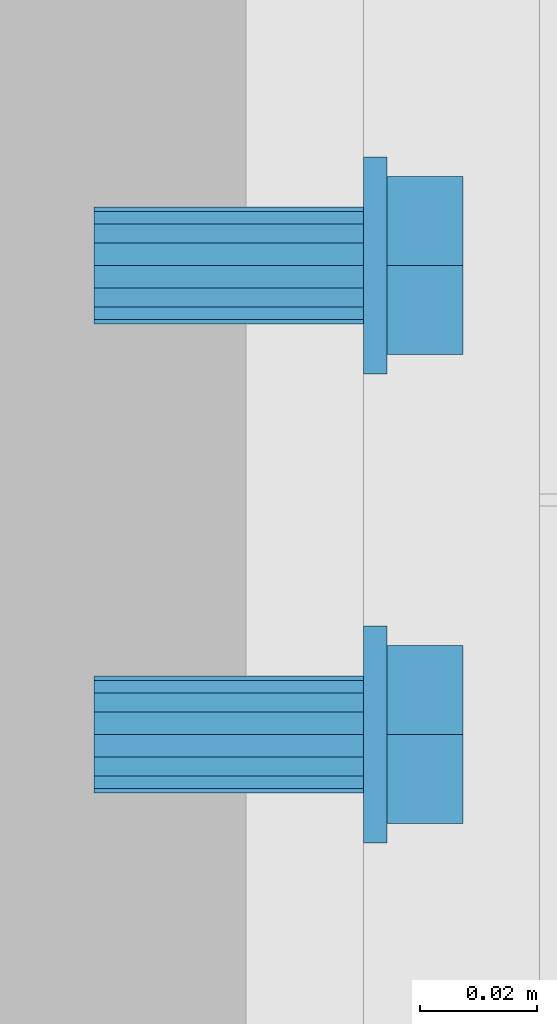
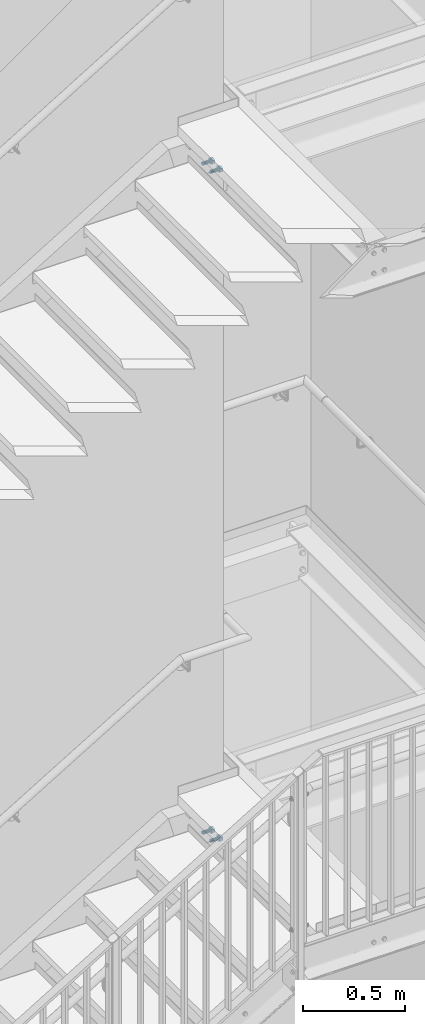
# One storey, part 309 of 410: 4 mechanical fasteners.
"""IFC2X3 building model written with IfcOpenShell, lengths in millimetres."""

from ifc_helpers import new_model, entity, si_unit, converted_unit, origin_with_axes, place, context, project, spatial, faceted_brep, element, save


model = new_model("IFC2X3")

# Units and contexts
model_context = context("Model", 3, precision=1e-09, world=origin_with_axes())
ifc_project = project(units=[si_unit("LENGTHUNIT", "METRE", prefix="MILLI"), si_unit("AREAUNIT", "SQUARE_METRE"), si_unit("VOLUMEUNIT", "CUBIC_METRE"), converted_unit("PLANEANGLEUNIT", "DEGREE", entity("IfcPlaneAngleMeasure", 0.01745329), si_unit("PLANEANGLEUNIT", "RADIAN"), dimensions=[0, 0, 0, 0, 0, 0, 0])], contexts=[model_context])

# Site, building, storey
site_placement = place(None, origin_with_axes())
site = spatial("IfcSite", under=ifc_project, at=site_placement, Name="mKR Teilneubau & Sanierung BA1 - Ostfildern", CompositionType="ELEMENT")
building_placement = place(site_placement, origin_with_axes())
building = spatial("IfcBuilding", under=site, at=building_placement, Name="Struktur 1", CompositionType="ELEMENT")
storey_placement = place(building_placement, origin_with_axes())
storey = spatial("IfcBuildingStorey", under=building, at=storey_placement, Name="Default Storey", CompositionType="ELEMENT", Elevation=0.0)

# Mechanical fasteners
mechanical_fastener_1_placement = place(None, origin_with_axes())
element("IfcMechanicalFastener", 1, at=mechanical_fastener_1_placement, inside=storey, ObjectType="-", NominalDiameter=20.0, NominalLength=50.0, context=model_context, shape_type="Brep", body=[
    faceted_brep([(1795.0, 17038.5, 5470.0), (1799.0, 17038.5, 5470.0), (1799.0, 17038.144527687, 5466.390829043), (1795.0, 17038.144527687, 5466.390829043), (1799.0, 17037.091771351, 5462.920356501), (1795.0, 17037.091771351, 5462.920356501), (1799.0, 17035.382187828, 5459.721950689), (1795.0, 17035.382187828, 5459.721950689), (1799.0, 17033.081475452, 5456.918524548), (1795.0, 17033.081475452, 5456.918524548), (1799.0, 17030.278049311, 5454.617812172), (1795.0, 17030.278049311, 5454.617812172), (1799.0, 17027.079643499, 5452.908228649), (1795.0, 17027.079643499, 5452.908228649), (1799.0, 17023.609170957, 5451.855472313), (1795.0, 17023.609170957, 5451.855472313), (1799.0, 17020.0, 5451.5), (1795.0, 17020.0, 5451.5), (1799.0, 17016.390829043, 5451.855472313), (1795.0, 17016.390829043, 5451.855472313), (1799.0, 17012.920356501, 5452.908228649), (1795.0, 17012.920356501, 5452.908228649), (1799.0, 17009.721950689, 5454.617812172), (1795.0, 17009.721950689, 5454.617812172), (1799.0, 17006.918524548, 5456.918524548), (1795.0, 17006.918524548, 5456.918524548), (1799.0, 17004.617812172, 5459.721950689), (1795.0, 17004.617812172, 5459.721950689), (1799.0, 17002.908228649, 5462.920356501), (1795.0, 17002.908228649, 5462.920356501), (1799.0, 17001.855472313, 5466.390829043), (1795.0, 17001.855472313, 5466.390829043), (1799.0, 17001.5, 5470.0), (1795.0, 17001.5, 5470.0), (1799.0, 17001.855472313, 5473.609170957), (1795.0, 17001.855472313, 5473.609170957), (1799.0, 17002.908228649, 5477.079643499), (1795.0, 17002.908228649, 5477.079643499), (1799.0, 17004.617812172, 5480.278049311), (1795.0, 17004.617812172, 5480.278049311), (1799.0, 17006.918524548, 5483.081475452), (1795.0, 17006.918524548, 5483.081475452), (1799.0, 17009.721950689, 5485.382187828), (1795.0, 17009.721950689, 5485.382187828), (1799.0, 17012.920356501, 5487.091771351), (1795.0, 17012.920356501, 5487.091771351), (1799.0, 17016.390829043, 5488.144527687), (1795.0, 17016.390829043, 5488.144527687), (1799.0, 17020.0, 5488.5), (1795.0, 17020.0, 5488.5), (1799.0, 17023.609170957, 5488.144527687), (1795.0, 17023.609170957, 5488.144527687), (1799.0, 17027.079643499, 5487.091771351), (1795.0, 17027.079643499, 5487.091771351), (1799.0, 17030.278049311, 5485.382187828), (1795.0, 17030.278049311, 5485.382187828), (1799.0, 17033.081475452, 5483.081475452), (1795.0, 17033.081475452, 5483.081475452), (1799.0, 17035.382187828, 5480.278049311), (1795.0, 17035.382187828, 5480.278049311), (1799.0, 17037.091771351, 5477.079643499), (1795.0, 17037.091771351, 5477.079643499), (1799.0, 17038.144527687, 5473.609170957), (1795.0, 17038.144527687, 5473.609170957)], [[[0, 1, 2, 3]], [[3, 2, 4, 5]], [[5, 4, 6, 7]], [[7, 6, 8, 9]], [[9, 8, 10, 11]], [[11, 10, 12, 13]], [[13, 12, 14, 15]], [[15, 14, 16, 17]], [[17, 16, 18, 19]], [[19, 18, 20, 21]], [[21, 20, 22, 23]], [[23, 22, 24, 25]], [[25, 24, 26, 27]], [[27, 26, 28, 29]], [[29, 28, 30, 31]], [[31, 30, 32, 33]], [[33, 32, 34, 35]], [[35, 34, 36, 37]], [[37, 36, 38, 39]], [[39, 38, 40, 41]], [[41, 40, 42, 43]], [[43, 42, 44, 45]], [[45, 44, 46, 47]], [[47, 46, 48, 49]], [[49, 48, 50, 51]], [[51, 50, 52, 53]], [[53, 52, 54, 55]], [[55, 54, 56, 57]], [[57, 56, 58, 59]], [[59, 58, 60, 61]], [[61, 60, 62, 63]], [[63, 62, 1, 0]], [[2, 1, 62, 60, 58, 56, 54, 52, 50, 48, 46, 44, 42, 40, 38, 36, 34, 32, 30, 28, 26, 24, 22, 20, 18, 16, 14, 12, 10, 8, 6, 4]], [[63, 0, 3, 5, 7, 9, 11, 13, 15, 17, 19, 21, 23, 25, 27, 29, 31, 33, 35, 37, 39, 41, 43, 45, 47, 49, 51, 53, 55, 57, 59, 61]]]),
    faceted_brep([(1812.0, 17004.831565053, 5461.2425), (1799.0, 17004.831565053, 5461.2425), (1799.0, 17020.0, 5452.485), (1812.0, 17020.0, 5452.485), (1799.0, 17035.168434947, 5461.2425), (1812.0, 17035.168434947, 5461.2425), (1799.0, 17035.168434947, 5478.7575), (1812.0, 17035.168434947, 5478.7575), (1799.0, 17020.0, 5487.515), (1812.0, 17020.0, 5487.515), (1799.0, 17004.831565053, 5478.7575), (1812.0, 17004.831565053, 5478.7575)], [[[0, 1, 2, 3]], [[3, 2, 4, 5]], [[5, 4, 6, 7]], [[7, 6, 8, 9]], [[9, 8, 10, 11]], [[11, 10, 1, 0]], [[3, 5, 7, 9, 11, 0]], [[2, 1, 10, 8, 6, 4]]]),
    faceted_brep([(1775.0, 17030.0, 5470.0), (1795.0, 17030.0, 5470.0), (1795.0, 17029.238795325, 5466.173165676), (1775.0, 17029.238795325, 5466.173165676), (1795.0, 17027.071067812, 5462.928932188), (1775.0, 17027.071067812, 5462.928932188), (1795.0, 17023.826834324, 5460.761204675), (1775.0, 17023.826834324, 5460.761204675), (1795.0, 17020.0, 5460.0), (1775.0, 17020.0, 5460.0), (1795.0, 17016.173165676, 5460.761204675), (1775.0, 17016.173165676, 5460.761204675), (1795.0, 17012.928932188, 5462.928932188), (1775.0, 17012.928932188, 5462.928932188), (1795.0, 17010.761204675, 5466.173165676), (1775.0, 17010.761204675, 5466.173165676), (1795.0, 17010.0, 5470.0), (1775.0, 17010.0, 5470.0), (1795.0, 17010.761204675, 5473.826834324), (1775.0, 17010.761204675, 5473.826834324), (1795.0, 17012.928932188, 5477.071067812), (1775.0, 17012.928932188, 5477.071067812), (1795.0, 17016.173165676, 5479.238795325), (1775.0, 17016.173165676, 5479.238795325), (1795.0, 17020.0, 5480.0), (1775.0, 17020.0, 5480.0), (1795.0, 17023.826834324, 5479.238795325), (1775.0, 17023.826834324, 5479.238795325), (1795.0, 17027.071067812, 5477.071067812), (1775.0, 17027.071067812, 5477.071067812), (1795.0, 17029.238795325, 5473.826834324), (1775.0, 17029.238795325, 5473.826834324)], [[[0, 1, 2, 3]], [[3, 2, 4, 5]], [[5, 4, 6, 7]], [[7, 6, 8, 9]], [[9, 8, 10, 11]], [[11, 10, 12, 13]], [[13, 12, 14, 15]], [[15, 14, 16, 17]], [[17, 16, 18, 19]], [[19, 18, 20, 21]], [[21, 20, 22, 23]], [[23, 22, 24, 25]], [[25, 24, 26, 27]], [[27, 26, 28, 29]], [[29, 28, 30, 31]], [[31, 30, 1, 0]], [[2, 1, 30, 28, 26, 24, 22, 20, 18, 16, 14, 12, 10, 8, 6, 4]], [[31, 0, 3, 5, 7, 9, 11, 13, 15, 17, 19, 21, 23, 25, 27, 29]]]),
    faceted_brep([(1749.0, 17030.0, 5470.0), (1775.0, 17030.0, 5470.0), (1775.0, 17029.238795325, 5466.173165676), (1749.0, 17029.238795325, 5466.173165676), (1775.0, 17027.071067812, 5462.928932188), (1749.0, 17027.071067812, 5462.928932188), (1775.0, 17023.826834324, 5460.761204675), (1749.0, 17023.826834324, 5460.761204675), (1775.0, 17020.0, 5460.0), (1749.0, 17020.0, 5460.0), (1775.0, 17016.173165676, 5460.761204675), (1749.0, 17016.173165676, 5460.761204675), (1775.0, 17012.928932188, 5462.928932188), (1749.0, 17012.928932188, 5462.928932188), (1775.0, 17010.761204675, 5466.173165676), (1749.0, 17010.761204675, 5466.173165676), (1775.0, 17010.0, 5470.0), (1749.0, 17010.0, 5470.0), (1775.0, 17010.761204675, 5473.826834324), (1749.0, 17010.761204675, 5473.826834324), (1775.0, 17012.928932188, 5477.071067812), (1749.0, 17012.928932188, 5477.071067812), (1775.0, 17016.173165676, 5479.238795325), (1749.0, 17016.173165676, 5479.238795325), (1775.0, 17020.0, 5480.0), (1749.0, 17020.0, 5480.0), (1775.0, 17023.826834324, 5479.238795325), (1749.0, 17023.826834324, 5479.238795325), (1775.0, 17027.071067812, 5477.071067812), (1749.0, 17027.071067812, 5477.071067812), (1775.0, 17029.238795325, 5473.826834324), (1749.0, 17029.238795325, 5473.826834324)], [[[0, 1, 2, 3]], [[3, 2, 4, 5]], [[5, 4, 6, 7]], [[7, 6, 8, 9]], [[9, 8, 10, 11]], [[11, 10, 12, 13]], [[13, 12, 14, 15]], [[15, 14, 16, 17]], [[17, 16, 18, 19]], [[19, 18, 20, 21]], [[21, 20, 22, 23]], [[23, 22, 24, 25]], [[25, 24, 26, 27]], [[27, 26, 28, 29]], [[29, 28, 30, 31]], [[31, 30, 1, 0]], [[2, 1, 30, 28, 26, 24, 22, 20, 18, 16, 14, 12, 10, 8, 6, 4]], [[31, 0, 3, 5, 7, 9, 11, 13, 15, 17, 19, 21, 23, 25, 27, 29]]]),
])
mechanical_fastener_2_placement = place(None, origin_with_axes())
element("IfcMechanicalFastener", 2, at=mechanical_fastener_2_placement, inside=storey, ObjectType="-", NominalDiameter=20.0, NominalLength=50.0, context=model_context, shape_type="Brep", body=[
    faceted_brep([(1795.0, 16958.5, 5470.0), (1799.0, 16958.5, 5470.0), (1799.0, 16958.144527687, 5466.390829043), (1795.0, 16958.144527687, 5466.390829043), (1799.0, 16957.091771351, 5462.920356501), (1795.0, 16957.091771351, 5462.920356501), (1799.0, 16955.382187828, 5459.721950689), (1795.0, 16955.382187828, 5459.721950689), (1799.0, 16953.081475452, 5456.918524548), (1795.0, 16953.081475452, 5456.918524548), (1799.0, 16950.278049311, 5454.617812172), (1795.0, 16950.278049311, 5454.617812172), (1799.0, 16947.079643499, 5452.908228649), (1795.0, 16947.079643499, 5452.908228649), (1799.0, 16943.609170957, 5451.855472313), (1795.0, 16943.609170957, 5451.855472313), (1799.0, 16940.0, 5451.5), (1795.0, 16940.0, 5451.5), (1799.0, 16936.390829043, 5451.855472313), (1795.0, 16936.390829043, 5451.855472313), (1799.0, 16932.920356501, 5452.908228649), (1795.0, 16932.920356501, 5452.908228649), (1799.0, 16929.721950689, 5454.617812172), (1795.0, 16929.721950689, 5454.617812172), (1799.0, 16926.918524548, 5456.918524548), (1795.0, 16926.918524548, 5456.918524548), (1799.0, 16924.617812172, 5459.721950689), (1795.0, 16924.617812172, 5459.721950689), (1799.0, 16922.908228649, 5462.920356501), (1795.0, 16922.908228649, 5462.920356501), (1799.0, 16921.855472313, 5466.390829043), (1795.0, 16921.855472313, 5466.390829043), (1799.0, 16921.5, 5470.0), (1795.0, 16921.5, 5470.0), (1799.0, 16921.855472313, 5473.609170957), (1795.0, 16921.855472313, 5473.609170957), (1799.0, 16922.908228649, 5477.079643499), (1795.0, 16922.908228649, 5477.079643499), (1799.0, 16924.617812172, 5480.278049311), (1795.0, 16924.617812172, 5480.278049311), (1799.0, 16926.918524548, 5483.081475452), (1795.0, 16926.918524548, 5483.081475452), (1799.0, 16929.721950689, 5485.382187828), (1795.0, 16929.721950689, 5485.382187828), (1799.0, 16932.920356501, 5487.091771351), (1795.0, 16932.920356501, 5487.091771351), (1799.0, 16936.390829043, 5488.144527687), (1795.0, 16936.390829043, 5488.144527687), (1799.0, 16940.0, 5488.5), (1795.0, 16940.0, 5488.5), (1799.0, 16943.609170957, 5488.144527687), (1795.0, 16943.609170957, 5488.144527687), (1799.0, 16947.079643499, 5487.091771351), (1795.0, 16947.079643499, 5487.091771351), (1799.0, 16950.278049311, 5485.382187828), (1795.0, 16950.278049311, 5485.382187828), (1799.0, 16953.081475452, 5483.081475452), (1795.0, 16953.081475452, 5483.081475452), (1799.0, 16955.382187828, 5480.278049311), (1795.0, 16955.382187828, 5480.278049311), (1799.0, 16957.091771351, 5477.079643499), (1795.0, 16957.091771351, 5477.079643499), (1799.0, 16958.144527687, 5473.609170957), (1795.0, 16958.144527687, 5473.609170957)], [[[0, 1, 2, 3]], [[3, 2, 4, 5]], [[5, 4, 6, 7]], [[7, 6, 8, 9]], [[9, 8, 10, 11]], [[11, 10, 12, 13]], [[13, 12, 14, 15]], [[15, 14, 16, 17]], [[17, 16, 18, 19]], [[19, 18, 20, 21]], [[21, 20, 22, 23]], [[23, 22, 24, 25]], [[25, 24, 26, 27]], [[27, 26, 28, 29]], [[29, 28, 30, 31]], [[31, 30, 32, 33]], [[33, 32, 34, 35]], [[35, 34, 36, 37]], [[37, 36, 38, 39]], [[39, 38, 40, 41]], [[41, 40, 42, 43]], [[43, 42, 44, 45]], [[45, 44, 46, 47]], [[47, 46, 48, 49]], [[49, 48, 50, 51]], [[51, 50, 52, 53]], [[53, 52, 54, 55]], [[55, 54, 56, 57]], [[57, 56, 58, 59]], [[59, 58, 60, 61]], [[61, 60, 62, 63]], [[63, 62, 1, 0]], [[2, 1, 62, 60, 58, 56, 54, 52, 50, 48, 46, 44, 42, 40, 38, 36, 34, 32, 30, 28, 26, 24, 22, 20, 18, 16, 14, 12, 10, 8, 6, 4]], [[63, 0, 3, 5, 7, 9, 11, 13, 15, 17, 19, 21, 23, 25, 27, 29, 31, 33, 35, 37, 39, 41, 43, 45, 47, 49, 51, 53, 55, 57, 59, 61]]]),
    faceted_brep([(1812.0, 16924.831565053, 5461.2425), (1799.0, 16924.831565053, 5461.2425), (1799.0, 16940.0, 5452.485), (1812.0, 16940.0, 5452.485), (1799.0, 16955.168434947, 5461.2425), (1812.0, 16955.168434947, 5461.2425), (1799.0, 16955.168434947, 5478.7575), (1812.0, 16955.168434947, 5478.7575), (1799.0, 16940.0, 5487.515), (1812.0, 16940.0, 5487.515), (1799.0, 16924.831565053, 5478.7575), (1812.0, 16924.831565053, 5478.7575)], [[[0, 1, 2, 3]], [[3, 2, 4, 5]], [[5, 4, 6, 7]], [[7, 6, 8, 9]], [[9, 8, 10, 11]], [[11, 10, 1, 0]], [[3, 5, 7, 9, 11, 0]], [[2, 1, 10, 8, 6, 4]]]),
    faceted_brep([(1775.0, 16950.0, 5470.0), (1795.0, 16950.0, 5470.0), (1795.0, 16949.238795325, 5466.173165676), (1775.0, 16949.238795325, 5466.173165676), (1795.0, 16947.071067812, 5462.928932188), (1775.0, 16947.071067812, 5462.928932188), (1795.0, 16943.826834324, 5460.761204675), (1775.0, 16943.826834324, 5460.761204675), (1795.0, 16940.0, 5460.0), (1775.0, 16940.0, 5460.0), (1795.0, 16936.173165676, 5460.761204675), (1775.0, 16936.173165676, 5460.761204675), (1795.0, 16932.928932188, 5462.928932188), (1775.0, 16932.928932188, 5462.928932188), (1795.0, 16930.761204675, 5466.173165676), (1775.0, 16930.761204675, 5466.173165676), (1795.0, 16930.0, 5470.0), (1775.0, 16930.0, 5470.0), (1795.0, 16930.761204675, 5473.826834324), (1775.0, 16930.761204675, 5473.826834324), (1795.0, 16932.928932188, 5477.071067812), (1775.0, 16932.928932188, 5477.071067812), (1795.0, 16936.173165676, 5479.238795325), (1775.0, 16936.173165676, 5479.238795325), (1795.0, 16940.0, 5480.0), (1775.0, 16940.0, 5480.0), (1795.0, 16943.826834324, 5479.238795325), (1775.0, 16943.826834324, 5479.238795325), (1795.0, 16947.071067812, 5477.071067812), (1775.0, 16947.071067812, 5477.071067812), (1795.0, 16949.238795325, 5473.826834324), (1775.0, 16949.238795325, 5473.826834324)], [[[0, 1, 2, 3]], [[3, 2, 4, 5]], [[5, 4, 6, 7]], [[7, 6, 8, 9]], [[9, 8, 10, 11]], [[11, 10, 12, 13]], [[13, 12, 14, 15]], [[15, 14, 16, 17]], [[17, 16, 18, 19]], [[19, 18, 20, 21]], [[21, 20, 22, 23]], [[23, 22, 24, 25]], [[25, 24, 26, 27]], [[27, 26, 28, 29]], [[29, 28, 30, 31]], [[31, 30, 1, 0]], [[2, 1, 30, 28, 26, 24, 22, 20, 18, 16, 14, 12, 10, 8, 6, 4]], [[31, 0, 3, 5, 7, 9, 11, 13, 15, 17, 19, 21, 23, 25, 27, 29]]]),
    faceted_brep([(1749.0, 16950.0, 5470.0), (1775.0, 16950.0, 5470.0), (1775.0, 16949.238795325, 5466.173165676), (1749.0, 16949.238795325, 5466.173165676), (1775.0, 16947.071067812, 5462.928932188), (1749.0, 16947.071067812, 5462.928932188), (1775.0, 16943.826834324, 5460.761204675), (1749.0, 16943.826834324, 5460.761204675), (1775.0, 16940.0, 5460.0), (1749.0, 16940.0, 5460.0), (1775.0, 16936.173165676, 5460.761204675), (1749.0, 16936.173165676, 5460.761204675), (1775.0, 16932.928932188, 5462.928932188), (1749.0, 16932.928932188, 5462.928932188), (1775.0, 16930.761204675, 5466.173165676), (1749.0, 16930.761204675, 5466.173165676), (1775.0, 16930.0, 5470.0), (1749.0, 16930.0, 5470.0), (1775.0, 16930.761204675, 5473.826834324), (1749.0, 16930.761204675, 5473.826834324), (1775.0, 16932.928932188, 5477.071067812), (1749.0, 16932.928932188, 5477.071067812), (1775.0, 16936.173165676, 5479.238795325), (1749.0, 16936.173165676, 5479.238795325), (1775.0, 16940.0, 5480.0), (1749.0, 16940.0, 5480.0), (1775.0, 16943.826834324, 5479.238795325), (1749.0, 16943.826834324, 5479.238795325), (1775.0, 16947.071067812, 5477.071067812), (1749.0, 16947.071067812, 5477.071067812), (1775.0, 16949.238795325, 5473.826834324), (1749.0, 16949.238795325, 5473.826834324)], [[[0, 1, 2, 3]], [[3, 2, 4, 5]], [[5, 4, 6, 7]], [[7, 6, 8, 9]], [[9, 8, 10, 11]], [[11, 10, 12, 13]], [[13, 12, 14, 15]], [[15, 14, 16, 17]], [[17, 16, 18, 19]], [[19, 18, 20, 21]], [[21, 20, 22, 23]], [[23, 22, 24, 25]], [[25, 24, 26, 27]], [[27, 26, 28, 29]], [[29, 28, 30, 31]], [[31, 30, 1, 0]], [[2, 1, 30, 28, 26, 24, 22, 20, 18, 16, 14, 12, 10, 8, 6, 4]], [[31, 0, 3, 5, 7, 9, 11, 13, 15, 17, 19, 21, 23, 25, 27, 29]]]),
])
mechanical_fastener_3_placement = place(None, origin_with_axes())
element("IfcMechanicalFastener", 3, at=mechanical_fastener_3_placement, inside=storey, ObjectType="-", NominalDiameter=20.0, NominalLength=50.0, context=model_context, shape_type="Brep", body=[
    faceted_brep([(1795.0, 16958.5, 1458.0434785), (1799.0, 16958.5, 1458.0434785), (1799.0, 16958.144527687, 1454.434307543), (1795.0, 16958.144527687, 1454.434307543), (1799.0, 16957.091771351, 1450.963835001), (1795.0, 16957.091771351, 1450.963835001), (1799.0, 16955.382187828, 1447.765429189), (1795.0, 16955.382187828, 1447.765429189), (1799.0, 16953.081475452, 1444.962003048), (1795.0, 16953.081475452, 1444.962003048), (1799.0, 16950.278049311, 1442.661290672), (1795.0, 16950.278049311, 1442.661290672), (1799.0, 16947.079643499, 1440.951707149), (1795.0, 16947.079643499, 1440.951707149), (1799.0, 16943.609170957, 1439.898950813), (1795.0, 16943.609170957, 1439.898950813), (1799.0, 16940.0, 1439.5434785), (1795.0, 16940.0, 1439.5434785), (1799.0, 16936.390829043, 1439.898950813), (1795.0, 16936.390829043, 1439.898950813), (1799.0, 16932.920356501, 1440.951707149), (1795.0, 16932.920356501, 1440.951707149), (1799.0, 16929.721950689, 1442.661290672), (1795.0, 16929.721950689, 1442.661290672), (1799.0, 16926.918524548, 1444.962003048), (1795.0, 16926.918524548, 1444.962003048), (1799.0, 16924.617812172, 1447.765429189), (1795.0, 16924.617812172, 1447.765429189), (1799.0, 16922.908228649, 1450.963835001), (1795.0, 16922.908228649, 1450.963835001), (1799.0, 16921.855472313, 1454.434307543), (1795.0, 16921.855472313, 1454.434307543), (1799.0, 16921.5, 1458.0434785), (1795.0, 16921.5, 1458.0434785), (1799.0, 16921.855472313, 1461.652649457), (1795.0, 16921.855472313, 1461.652649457), (1799.0, 16922.908228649, 1465.123121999), (1795.0, 16922.908228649, 1465.123121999), (1799.0, 16924.617812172, 1468.321527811), (1795.0, 16924.617812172, 1468.321527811), (1799.0, 16926.918524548, 1471.124953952), (1795.0, 16926.918524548, 1471.124953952), (1799.0, 16929.721950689, 1473.425666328), (1795.0, 16929.721950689, 1473.425666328), (1799.0, 16932.920356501, 1475.135249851), (1795.0, 16932.920356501, 1475.135249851), (1799.0, 16936.390829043, 1476.188006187), (1795.0, 16936.390829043, 1476.188006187), (1799.0, 16940.0, 1476.5434785), (1795.0, 16940.0, 1476.5434785), (1799.0, 16943.609170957, 1476.188006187), (1795.0, 16943.609170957, 1476.188006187), (1799.0, 16947.079643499, 1475.135249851), (1795.0, 16947.079643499, 1475.135249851), (1799.0, 16950.278049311, 1473.425666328), (1795.0, 16950.278049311, 1473.425666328), (1799.0, 16953.081475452, 1471.124953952), (1795.0, 16953.081475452, 1471.124953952), (1799.0, 16955.382187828, 1468.321527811), (1795.0, 16955.382187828, 1468.321527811), (1799.0, 16957.091771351, 1465.123121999), (1795.0, 16957.091771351, 1465.123121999), (1799.0, 16958.144527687, 1461.652649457), (1795.0, 16958.144527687, 1461.652649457)], [[[0, 1, 2, 3]], [[3, 2, 4, 5]], [[5, 4, 6, 7]], [[7, 6, 8, 9]], [[9, 8, 10, 11]], [[11, 10, 12, 13]], [[13, 12, 14, 15]], [[15, 14, 16, 17]], [[17, 16, 18, 19]], [[19, 18, 20, 21]], [[21, 20, 22, 23]], [[23, 22, 24, 25]], [[25, 24, 26, 27]], [[27, 26, 28, 29]], [[29, 28, 30, 31]], [[31, 30, 32, 33]], [[33, 32, 34, 35]], [[35, 34, 36, 37]], [[37, 36, 38, 39]], [[39, 38, 40, 41]], [[41, 40, 42, 43]], [[43, 42, 44, 45]], [[45, 44, 46, 47]], [[47, 46, 48, 49]], [[49, 48, 50, 51]], [[51, 50, 52, 53]], [[53, 52, 54, 55]], [[55, 54, 56, 57]], [[57, 56, 58, 59]], [[59, 58, 60, 61]], [[61, 60, 62, 63]], [[63, 62, 1, 0]], [[2, 1, 62, 60, 58, 56, 54, 52, 50, 48, 46, 44, 42, 40, 38, 36, 34, 32, 30, 28, 26, 24, 22, 20, 18, 16, 14, 12, 10, 8, 6, 4]], [[63, 0, 3, 5, 7, 9, 11, 13, 15, 17, 19, 21, 23, 25, 27, 29, 31, 33, 35, 37, 39, 41, 43, 45, 47, 49, 51, 53, 55, 57, 59, 61]]]),
    faceted_brep([(1812.0, 16924.831565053, 1449.2859785), (1799.0, 16924.831565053, 1449.2859785), (1799.0, 16940.0, 1440.5284785), (1812.0, 16940.0, 1440.5284785), (1799.0, 16955.168434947, 1449.2859785), (1812.0, 16955.168434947, 1449.2859785), (1799.0, 16955.168434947, 1466.8009785), (1812.0, 16955.168434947, 1466.8009785), (1799.0, 16940.0, 1475.5584785), (1812.0, 16940.0, 1475.5584785), (1799.0, 16924.831565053, 1466.8009785), (1812.0, 16924.831565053, 1466.8009785)], [[[0, 1, 2, 3]], [[3, 2, 4, 5]], [[5, 4, 6, 7]], [[7, 6, 8, 9]], [[9, 8, 10, 11]], [[11, 10, 1, 0]], [[3, 5, 7, 9, 11, 0]], [[2, 1, 10, 8, 6, 4]]]),
    faceted_brep([(1775.0, 16950.0, 1458.0434785), (1795.0, 16950.0, 1458.0434785), (1795.0, 16949.238795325, 1454.216644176), (1775.0, 16949.238795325, 1454.216644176), (1795.0, 16947.071067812, 1450.972410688), (1775.0, 16947.071067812, 1450.972410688), (1795.0, 16943.826834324, 1448.804683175), (1775.0, 16943.826834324, 1448.804683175), (1795.0, 16940.0, 1448.0434785), (1775.0, 16940.0, 1448.0434785), (1795.0, 16936.173165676, 1448.804683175), (1775.0, 16936.173165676, 1448.804683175), (1795.0, 16932.928932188, 1450.972410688), (1775.0, 16932.928932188, 1450.972410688), (1795.0, 16930.761204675, 1454.216644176), (1775.0, 16930.761204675, 1454.216644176), (1795.0, 16930.0, 1458.0434785), (1775.0, 16930.0, 1458.0434785), (1795.0, 16930.761204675, 1461.870312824), (1775.0, 16930.761204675, 1461.870312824), (1795.0, 16932.928932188, 1465.114546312), (1775.0, 16932.928932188, 1465.114546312), (1795.0, 16936.173165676, 1467.282273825), (1775.0, 16936.173165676, 1467.282273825), (1795.0, 16940.0, 1468.0434785), (1775.0, 16940.0, 1468.0434785), (1795.0, 16943.826834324, 1467.282273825), (1775.0, 16943.826834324, 1467.282273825), (1795.0, 16947.071067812, 1465.114546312), (1775.0, 16947.071067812, 1465.114546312), (1795.0, 16949.238795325, 1461.870312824), (1775.0, 16949.238795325, 1461.870312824)], [[[0, 1, 2, 3]], [[3, 2, 4, 5]], [[5, 4, 6, 7]], [[7, 6, 8, 9]], [[9, 8, 10, 11]], [[11, 10, 12, 13]], [[13, 12, 14, 15]], [[15, 14, 16, 17]], [[17, 16, 18, 19]], [[19, 18, 20, 21]], [[21, 20, 22, 23]], [[23, 22, 24, 25]], [[25, 24, 26, 27]], [[27, 26, 28, 29]], [[29, 28, 30, 31]], [[31, 30, 1, 0]], [[2, 1, 30, 28, 26, 24, 22, 20, 18, 16, 14, 12, 10, 8, 6, 4]], [[31, 0, 3, 5, 7, 9, 11, 13, 15, 17, 19, 21, 23, 25, 27, 29]]]),
    faceted_brep([(1749.0, 16950.0, 1458.0434785), (1775.0, 16950.0, 1458.0434785), (1775.0, 16949.238795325, 1454.216644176), (1749.0, 16949.238795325, 1454.216644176), (1775.0, 16947.071067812, 1450.972410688), (1749.0, 16947.071067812, 1450.972410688), (1775.0, 16943.826834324, 1448.804683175), (1749.0, 16943.826834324, 1448.804683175), (1775.0, 16940.0, 1448.0434785), (1749.0, 16940.0, 1448.0434785), (1775.0, 16936.173165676, 1448.804683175), (1749.0, 16936.173165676, 1448.804683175), (1775.0, 16932.928932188, 1450.972410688), (1749.0, 16932.928932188, 1450.972410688), (1775.0, 16930.761204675, 1454.216644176), (1749.0, 16930.761204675, 1454.216644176), (1775.0, 16930.0, 1458.0434785), (1749.0, 16930.0, 1458.0434785), (1775.0, 16930.761204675, 1461.870312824), (1749.0, 16930.761204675, 1461.870312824), (1775.0, 16932.928932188, 1465.114546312), (1749.0, 16932.928932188, 1465.114546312), (1775.0, 16936.173165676, 1467.282273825), (1749.0, 16936.173165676, 1467.282273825), (1775.0, 16940.0, 1468.0434785), (1749.0, 16940.0, 1468.0434785), (1775.0, 16943.826834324, 1467.282273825), (1749.0, 16943.826834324, 1467.282273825), (1775.0, 16947.071067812, 1465.114546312), (1749.0, 16947.071067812, 1465.114546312), (1775.0, 16949.238795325, 1461.870312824), (1749.0, 16949.238795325, 1461.870312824)], [[[0, 1, 2, 3]], [[3, 2, 4, 5]], [[5, 4, 6, 7]], [[7, 6, 8, 9]], [[9, 8, 10, 11]], [[11, 10, 12, 13]], [[13, 12, 14, 15]], [[15, 14, 16, 17]], [[17, 16, 18, 19]], [[19, 18, 20, 21]], [[21, 20, 22, 23]], [[23, 22, 24, 25]], [[25, 24, 26, 27]], [[27, 26, 28, 29]], [[29, 28, 30, 31]], [[31, 30, 1, 0]], [[2, 1, 30, 28, 26, 24, 22, 20, 18, 16, 14, 12, 10, 8, 6, 4]], [[31, 0, 3, 5, 7, 9, 11, 13, 15, 17, 19, 21, 23, 25, 27, 29]]]),
])
mechanical_fastener_4_placement = place(None, origin_with_axes())
element("IfcMechanicalFastener", 4, at=mechanical_fastener_4_placement, inside=storey, ObjectType="-", NominalDiameter=20.0, NominalLength=50.0, context=model_context, shape_type="Brep", body=[
    faceted_brep([(1795.0, 17038.5, 1458.0434785), (1799.0, 17038.5, 1458.0434785), (1799.0, 17038.144527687, 1454.434307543), (1795.0, 17038.144527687, 1454.434307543), (1799.0, 17037.091771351, 1450.963835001), (1795.0, 17037.091771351, 1450.963835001), (1799.0, 17035.382187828, 1447.765429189), (1795.0, 17035.382187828, 1447.765429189), (1799.0, 17033.081475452, 1444.962003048), (1795.0, 17033.081475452, 1444.962003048), (1799.0, 17030.278049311, 1442.661290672), (1795.0, 17030.278049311, 1442.661290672), (1799.0, 17027.079643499, 1440.951707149), (1795.0, 17027.079643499, 1440.951707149), (1799.0, 17023.609170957, 1439.898950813), (1795.0, 17023.609170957, 1439.898950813), (1799.0, 17020.0, 1439.5434785), (1795.0, 17020.0, 1439.5434785), (1799.0, 17016.390829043, 1439.898950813), (1795.0, 17016.390829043, 1439.898950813), (1799.0, 17012.920356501, 1440.951707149), (1795.0, 17012.920356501, 1440.951707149), (1799.0, 17009.721950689, 1442.661290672), (1795.0, 17009.721950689, 1442.661290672), (1799.0, 17006.918524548, 1444.962003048), (1795.0, 17006.918524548, 1444.962003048), (1799.0, 17004.617812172, 1447.765429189), (1795.0, 17004.617812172, 1447.765429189), (1799.0, 17002.908228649, 1450.963835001), (1795.0, 17002.908228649, 1450.963835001), (1799.0, 17001.855472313, 1454.434307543), (1795.0, 17001.855472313, 1454.434307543), (1799.0, 17001.5, 1458.0434785), (1795.0, 17001.5, 1458.0434785), (1799.0, 17001.855472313, 1461.652649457), (1795.0, 17001.855472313, 1461.652649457), (1799.0, 17002.908228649, 1465.123121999), (1795.0, 17002.908228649, 1465.123121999), (1799.0, 17004.617812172, 1468.321527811), (1795.0, 17004.617812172, 1468.321527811), (1799.0, 17006.918524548, 1471.124953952), (1795.0, 17006.918524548, 1471.124953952), (1799.0, 17009.721950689, 1473.425666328), (1795.0, 17009.721950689, 1473.425666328), (1799.0, 17012.920356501, 1475.135249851), (1795.0, 17012.920356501, 1475.135249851), (1799.0, 17016.390829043, 1476.188006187), (1795.0, 17016.390829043, 1476.188006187), (1799.0, 17020.0, 1476.5434785), (1795.0, 17020.0, 1476.5434785), (1799.0, 17023.609170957, 1476.188006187), (1795.0, 17023.609170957, 1476.188006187), (1799.0, 17027.079643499, 1475.135249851), (1795.0, 17027.079643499, 1475.135249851), (1799.0, 17030.278049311, 1473.425666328), (1795.0, 17030.278049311, 1473.425666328), (1799.0, 17033.081475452, 1471.124953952), (1795.0, 17033.081475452, 1471.124953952), (1799.0, 17035.382187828, 1468.321527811), (1795.0, 17035.382187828, 1468.321527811), (1799.0, 17037.091771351, 1465.123121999), (1795.0, 17037.091771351, 1465.123121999), (1799.0, 17038.144527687, 1461.652649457), (1795.0, 17038.144527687, 1461.652649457)], [[[0, 1, 2, 3]], [[3, 2, 4, 5]], [[5, 4, 6, 7]], [[7, 6, 8, 9]], [[9, 8, 10, 11]], [[11, 10, 12, 13]], [[13, 12, 14, 15]], [[15, 14, 16, 17]], [[17, 16, 18, 19]], [[19, 18, 20, 21]], [[21, 20, 22, 23]], [[23, 22, 24, 25]], [[25, 24, 26, 27]], [[27, 26, 28, 29]], [[29, 28, 30, 31]], [[31, 30, 32, 33]], [[33, 32, 34, 35]], [[35, 34, 36, 37]], [[37, 36, 38, 39]], [[39, 38, 40, 41]], [[41, 40, 42, 43]], [[43, 42, 44, 45]], [[45, 44, 46, 47]], [[47, 46, 48, 49]], [[49, 48, 50, 51]], [[51, 50, 52, 53]], [[53, 52, 54, 55]], [[55, 54, 56, 57]], [[57, 56, 58, 59]], [[59, 58, 60, 61]], [[61, 60, 62, 63]], [[63, 62, 1, 0]], [[2, 1, 62, 60, 58, 56, 54, 52, 50, 48, 46, 44, 42, 40, 38, 36, 34, 32, 30, 28, 26, 24, 22, 20, 18, 16, 14, 12, 10, 8, 6, 4]], [[63, 0, 3, 5, 7, 9, 11, 13, 15, 17, 19, 21, 23, 25, 27, 29, 31, 33, 35, 37, 39, 41, 43, 45, 47, 49, 51, 53, 55, 57, 59, 61]]]),
    faceted_brep([(1812.0, 17004.831565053, 1449.2859785), (1799.0, 17004.831565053, 1449.2859785), (1799.0, 17020.0, 1440.5284785), (1812.0, 17020.0, 1440.5284785), (1799.0, 17035.168434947, 1449.2859785), (1812.0, 17035.168434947, 1449.2859785), (1799.0, 17035.168434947, 1466.8009785), (1812.0, 17035.168434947, 1466.8009785), (1799.0, 17020.0, 1475.5584785), (1812.0, 17020.0, 1475.5584785), (1799.0, 17004.831565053, 1466.8009785), (1812.0, 17004.831565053, 1466.8009785)], [[[0, 1, 2, 3]], [[3, 2, 4, 5]], [[5, 4, 6, 7]], [[7, 6, 8, 9]], [[9, 8, 10, 11]], [[11, 10, 1, 0]], [[3, 5, 7, 9, 11, 0]], [[2, 1, 10, 8, 6, 4]]]),
    faceted_brep([(1775.0, 17030.0, 1458.0434785), (1795.0, 17030.0, 1458.0434785), (1795.0, 17029.238795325, 1454.216644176), (1775.0, 17029.238795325, 1454.216644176), (1795.0, 17027.071067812, 1450.972410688), (1775.0, 17027.071067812, 1450.972410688), (1795.0, 17023.826834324, 1448.804683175), (1775.0, 17023.826834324, 1448.804683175), (1795.0, 17020.0, 1448.0434785), (1775.0, 17020.0, 1448.0434785), (1795.0, 17016.173165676, 1448.804683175), (1775.0, 17016.173165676, 1448.804683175), (1795.0, 17012.928932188, 1450.972410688), (1775.0, 17012.928932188, 1450.972410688), (1795.0, 17010.761204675, 1454.216644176), (1775.0, 17010.761204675, 1454.216644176), (1795.0, 17010.0, 1458.0434785), (1775.0, 17010.0, 1458.0434785), (1795.0, 17010.761204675, 1461.870312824), (1775.0, 17010.761204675, 1461.870312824), (1795.0, 17012.928932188, 1465.114546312), (1775.0, 17012.928932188, 1465.114546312), (1795.0, 17016.173165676, 1467.282273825), (1775.0, 17016.173165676, 1467.282273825), (1795.0, 17020.0, 1468.0434785), (1775.0, 17020.0, 1468.0434785), (1795.0, 17023.826834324, 1467.282273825), (1775.0, 17023.826834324, 1467.282273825), (1795.0, 17027.071067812, 1465.114546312), (1775.0, 17027.071067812, 1465.114546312), (1795.0, 17029.238795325, 1461.870312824), (1775.0, 17029.238795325, 1461.870312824)], [[[0, 1, 2, 3]], [[3, 2, 4, 5]], [[5, 4, 6, 7]], [[7, 6, 8, 9]], [[9, 8, 10, 11]], [[11, 10, 12, 13]], [[13, 12, 14, 15]], [[15, 14, 16, 17]], [[17, 16, 18, 19]], [[19, 18, 20, 21]], [[21, 20, 22, 23]], [[23, 22, 24, 25]], [[25, 24, 26, 27]], [[27, 26, 28, 29]], [[29, 28, 30, 31]], [[31, 30, 1, 0]], [[2, 1, 30, 28, 26, 24, 22, 20, 18, 16, 14, 12, 10, 8, 6, 4]], [[31, 0, 3, 5, 7, 9, 11, 13, 15, 17, 19, 21, 23, 25, 27, 29]]]),
    faceted_brep([(1749.0, 17030.0, 1458.0434785), (1775.0, 17030.0, 1458.0434785), (1775.0, 17029.238795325, 1454.216644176), (1749.0, 17029.238795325, 1454.216644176), (1775.0, 17027.071067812, 1450.972410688), (1749.0, 17027.071067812, 1450.972410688), (1775.0, 17023.826834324, 1448.804683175), (1749.0, 17023.826834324, 1448.804683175), (1775.0, 17020.0, 1448.0434785), (1749.0, 17020.0, 1448.0434785), (1775.0, 17016.173165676, 1448.804683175), (1749.0, 17016.173165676, 1448.804683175), (1775.0, 17012.928932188, 1450.972410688), (1749.0, 17012.928932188, 1450.972410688), (1775.0, 17010.761204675, 1454.216644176), (1749.0, 17010.761204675, 1454.216644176), (1775.0, 17010.0, 1458.0434785), (1749.0, 17010.0, 1458.0434785), (1775.0, 17010.761204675, 1461.870312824), (1749.0, 17010.761204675, 1461.870312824), (1775.0, 17012.928932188, 1465.114546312), (1749.0, 17012.928932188, 1465.114546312), (1775.0, 17016.173165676, 1467.282273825), (1749.0, 17016.173165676, 1467.282273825), (1775.0, 17020.0, 1468.0434785), (1749.0, 17020.0, 1468.0434785), (1775.0, 17023.826834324, 1467.282273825), (1749.0, 17023.826834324, 1467.282273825), (1775.0, 17027.071067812, 1465.114546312), (1749.0, 17027.071067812, 1465.114546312), (1775.0, 17029.238795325, 1461.870312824), (1749.0, 17029.238795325, 1461.870312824)], [[[0, 1, 2, 3]], [[3, 2, 4, 5]], [[5, 4, 6, 7]], [[7, 6, 8, 9]], [[9, 8, 10, 11]], [[11, 10, 12, 13]], [[13, 12, 14, 15]], [[15, 14, 16, 17]], [[17, 16, 18, 19]], [[19, 18, 20, 21]], [[21, 20, 22, 23]], [[23, 22, 24, 25]], [[25, 24, 26, 27]], [[27, 26, 28, 29]], [[29, 28, 30, 31]], [[31, 30, 1, 0]], [[2, 1, 30, 28, 26, 24, 22, 20, 18, 16, 14, 12, 10, 8, 6, 4]], [[31, 0, 3, 5, 7, 9, 11, 13, 15, 17, 19, 21, 23, 25, 27, 29]]]),
])

save(model, "model.ifc")
